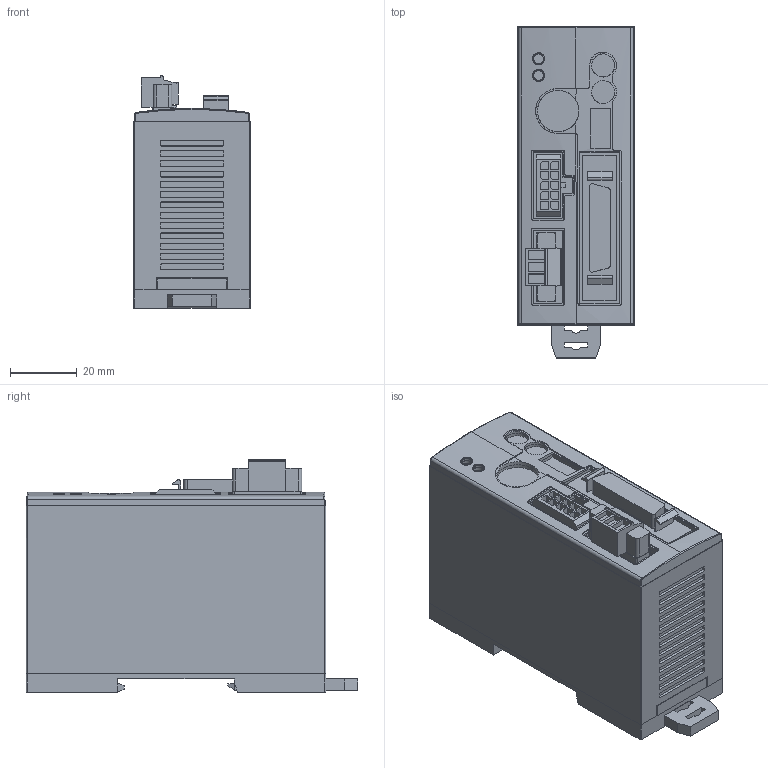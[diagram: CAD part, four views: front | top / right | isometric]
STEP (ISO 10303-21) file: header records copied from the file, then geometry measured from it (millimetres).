
FILE_DESCRIPTION (( 'STEP AP203' ), '1' );
FILE_NAME ('B546.STEP', '2019-07-29T03:03:53', ( 'om' ), ( 'Hewlett-Packard Company' ), 'SwSTEP 2.0', 'SolidWorks 2017', '' );
FILE_SCHEMA (( 'CONFIG_CONTROL_DESIGN' ));
Length unit declared in the file: millimetre
Products named in the file (1): B546
Bounding box: 35 x 99.65 x 69.8 mm (x, y, z)
Volume: 182548.5 mm3; surface area: 27008.7 mm2
Topology: 3 solids, 3 shells, 693 faces, 1798 edges, 1177 vertices
Faces by surface type: plane 446, cylinder 163, bspline 84
Entity records: 25814 total; most frequent: CARTESIAN_POINT 10053, ORIENTED_EDGE 3596, DIRECTION 2677, EDGE_CURVE 1798, LINE 1263, VECTOR 1263, VERTEX_POINT 1177, EDGE_LOOP 763
